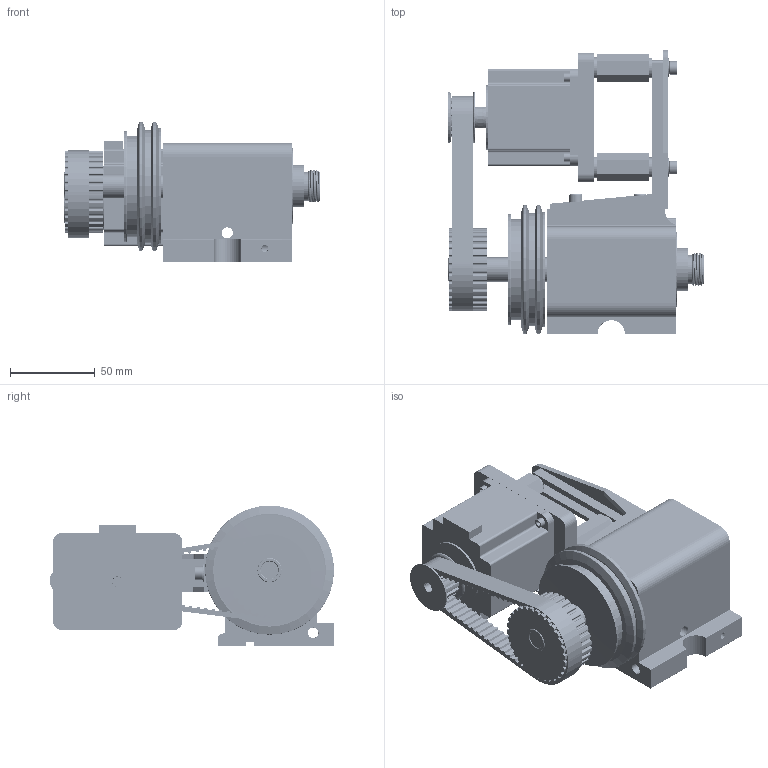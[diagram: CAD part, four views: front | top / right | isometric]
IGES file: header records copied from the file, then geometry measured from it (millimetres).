
Start section: Comment
Global section: file name: 6523 cog_step f2.igs; native system:  By Spatial Corp.; preprocessor: XPlus PS/IGES 3.0; author: Author; organization: Title; date: 20180629.092949; units: inch
Bounding box: 150.72 x 167.7 x 83.05 mm (x, y, z)
Surface area: 152063.4 mm2 (no closed solid volume)
Topology: 0 solids, 0 shells, 1984 faces, 11028 edges, 11028 vertices
Faces by surface type: revolution 1325, extrusion 643, bspline 16
